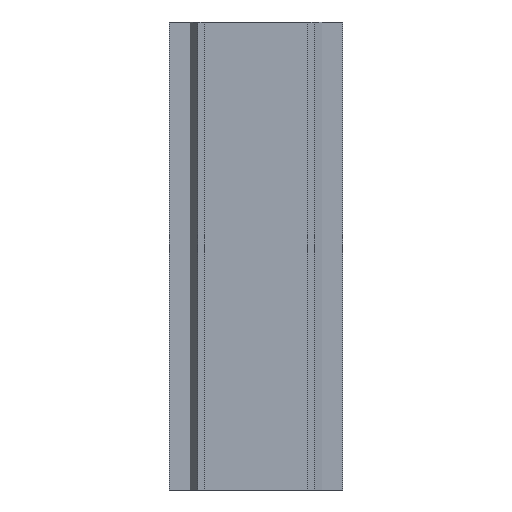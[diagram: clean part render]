
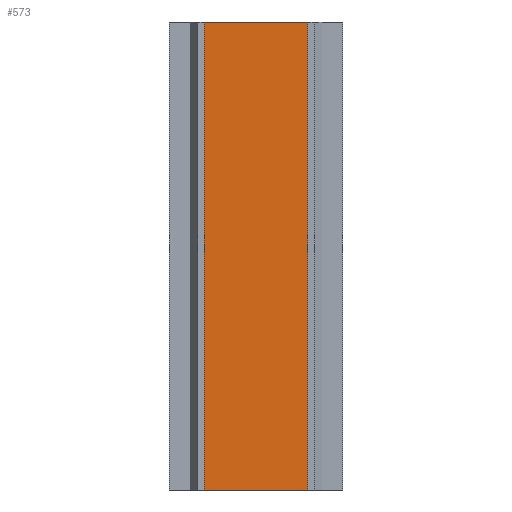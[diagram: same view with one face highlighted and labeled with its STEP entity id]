
A CAD part, front view. The second image highlights one B-rep face of the part: STEP entity #573.
In plain terms, the highlighted planar face has unit normal (0, -1, 0).
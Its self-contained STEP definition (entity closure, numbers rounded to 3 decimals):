
#20 = FACE_OUTER_BOUND ( 'NONE', #277, .T. ) ;
#46 = CARTESIAN_POINT ( 'NONE',  ( -786.717, 215.492, 100. ) ) ;
#67 = EDGE_CURVE ( 'NONE', #391, #162, #537, .T. ) ;
#92 = DIRECTION ( 'NONE',  ( 0., 1., 0. ) ) ;
#96 = VECTOR ( 'NONE', #465, 1000. ) ;
#162 = VERTEX_POINT ( 'NONE', #666 ) ;
#183 = ORIENTED_EDGE ( 'NONE', *, *, #584, .T. ) ;
#202 = DIRECTION ( 'NONE',  ( 1., 0., 0. ) ) ;
#221 = VECTOR ( 'NONE', #449, 1000. ) ;
#258 = VECTOR ( 'NONE', #459, 1000. ) ;
#272 = LINE ( 'NONE', #464, #96 ) ;
#277 = EDGE_LOOP ( 'NONE', ( #763, #743, #656, #183 ) ) ;
#281 = VERTEX_POINT ( 'NONE', #491 ) ;
#328 = LINE ( 'NONE', #738, #221 ) ;
#380 = PLANE ( 'NONE',  #582 ) ;
#381 = EDGE_CURVE ( 'NONE', #162, #281, #272, .T. ) ;
#391 = VERTEX_POINT ( 'NONE', #729 ) ;
#436 = CARTESIAN_POINT ( 'NONE',  ( -764.517, 215.492, 100. ) ) ;
#443 = CARTESIAN_POINT ( 'NONE',  ( -764.517, 215.492, 100. ) ) ;
#449 = DIRECTION ( 'NONE',  ( 1., 0., 0. ) ) ;
#459 = DIRECTION ( 'NONE',  ( 0., 0., -1. ) ) ;
#464 = CARTESIAN_POINT ( 'NONE',  ( -764.517, 215.492, 100. ) ) ;
#465 = DIRECTION ( 'NONE',  ( 0., 0., -1. ) ) ;
#491 = CARTESIAN_POINT ( 'NONE',  ( -764.517, 215.492, 0. ) ) ;
#492 = EDGE_CURVE ( 'NONE', #516, #281, #328, .T. ) ;
#499 = DIRECTION ( 'NONE',  ( 0., 0., 1. ) ) ;
#516 = VERTEX_POINT ( 'NONE', #557 ) ;
#537 = LINE ( 'NONE', #436, #720 ) ;
#557 = CARTESIAN_POINT ( 'NONE',  ( -786.717, 215.492, 0. ) ) ;
#573 = ADVANCED_FACE ( 'NONE', ( #20 ), #380, .F. ) ;
#582 = AXIS2_PLACEMENT_3D ( 'NONE', #443, #92, #499 ) ;
#584 = EDGE_CURVE ( 'NONE', #391, #516, #708, .T. ) ;
#656 = ORIENTED_EDGE ( 'NONE', *, *, #67, .F. ) ;
#666 = CARTESIAN_POINT ( 'NONE',  ( -764.517, 215.492, 100. ) ) ;
#708 = LINE ( 'NONE', #46, #258 ) ;
#720 = VECTOR ( 'NONE', #202, 1000. ) ;
#729 = CARTESIAN_POINT ( 'NONE',  ( -786.717, 215.492, 100. ) ) ;
#738 = CARTESIAN_POINT ( 'NONE',  ( -764.517, 215.492, 0. ) ) ;
#743 = ORIENTED_EDGE ( 'NONE', *, *, #381, .F. ) ;
#763 = ORIENTED_EDGE ( 'NONE', *, *, #492, .T. ) ;
